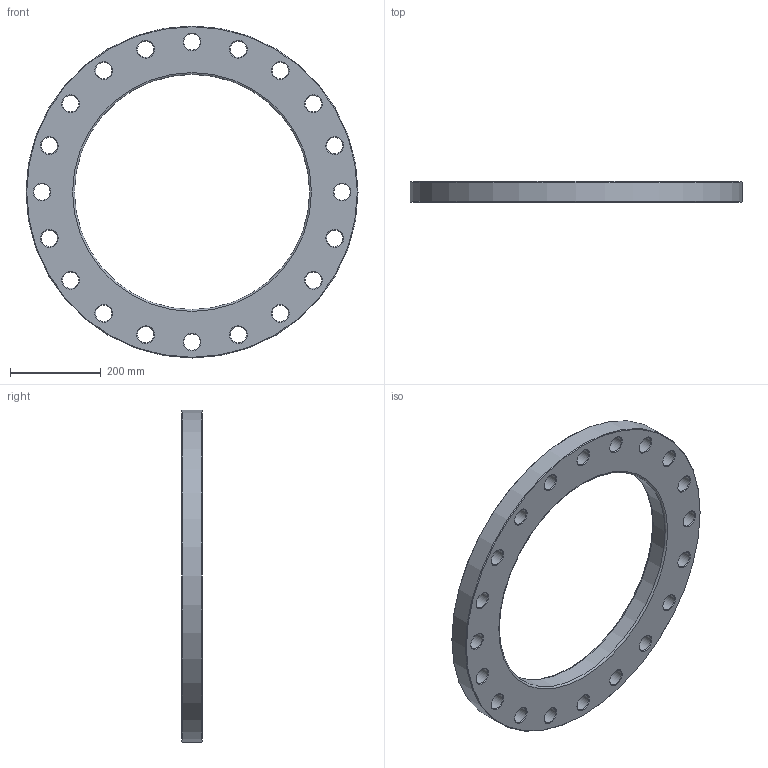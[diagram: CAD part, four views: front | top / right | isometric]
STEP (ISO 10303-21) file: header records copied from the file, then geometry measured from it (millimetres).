
FILE_DESCRIPTION(/* description */ ('Unknown'),/* implementation_level */ '2;1');
FILE_NAME(/* name */ 'FZ450H',/* time_stamp */ '2021-03-15T15:00:14+01:00',/* author */ ('Unknown'),/* organization */ ('Unknown'),/* preprocessor_version */ 'ST-DEVELOPER v16.7',/* originating_system */ 'Solid Edge',/* authorisation */ 'Unknown');
FILE_SCHEMA (('AUTOMOTIVE_DESIGN {1 0 10303 214 3 1 1}'));
Length unit declared in the file: millimetre
Products named in the file (1): FZ450H
Bounding box: 730 x 45 x 730 mm (x, y, z)
Volume: 8449803.1 mm3; surface area: 641127.1 mm2
Topology: 1 solids, 1 shells, 68 faces, 214 edges, 148 vertices
Faces by surface type: cone 42, cylinder 22, plane 2, torus 2
Full cylindrical faces by diameter (mm): 36 x20, 517 x1, 730 x1
Entity records: 1678 total; most frequent: DIRECTION 314, CARTESIAN_POINT 245, ORIENTED_EDGE 176, EDGE_LOOP 176, FACE_BOUND 176, AXIS2_PLACEMENT_3D 157, EDGE_CURVE 88, VERTEX_POINT 88
